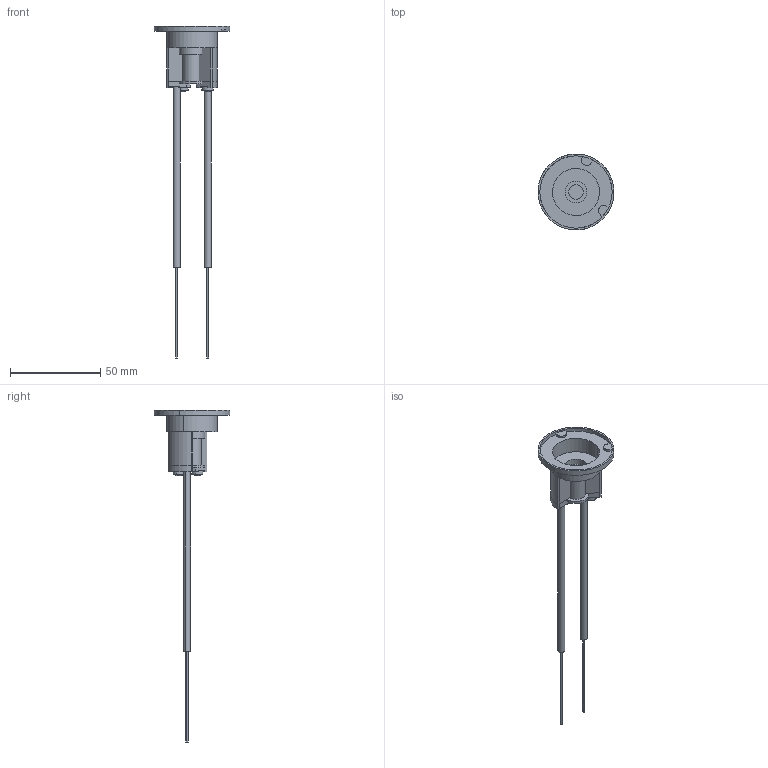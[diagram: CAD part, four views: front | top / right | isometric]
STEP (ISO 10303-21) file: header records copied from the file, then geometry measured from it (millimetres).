
FILE_DESCRIPTION (( 'STEP AP203' ), '1' );
FILE_NAME ('FR-10PRN.STEP', '2016-06-21T01:42:16', ( '' ), ( '' ), 'SwSTEP 2.0', 'SolidWorks 2014', '' );
FILE_SCHEMA (( 'CONFIG_CONTROL_DESIGN' ));
Length unit declared in the file: metre
Products named in the file (8): PRNA10S-#-#-#-FR (1); PRNA10S-#-#-#-FR (2); PRNA10S-#-#-#-FR (6); FR-10PRN; PRNA10S-#-#-#-FR (3); PRNA10S-#-#-#-FR (5); PRNA10S-#-#-#-FR (7); PRNA10S-#-#-#-FR (4)
Assembly tree (9 placements, depth 2):
  FR-10PRN
    PRNA10S-#-#-#-FR (1)
    PRNA10S-#-#-#-FR (2)
    PRNA10S-#-#-#-FR (3)
    PRNA10S-#-#-#-FR (4)
    PRNA10S-#-#-#-FR (5)
    PRNA10S-#-#-#-FR (6)  x2
    PRNA10S-#-#-#-FR (7)  x2
Bounding box: 42 x 41.99 x 183.5 mm (x, y, z)
Volume: 10632.7 mm3; surface area: 12364.2 mm2
Topology: 9 solids, 9 shells, 170 faces, 420 edges, 280 vertices
Faces by surface type: plane 84, cylinder 82, bspline 4
Entity records: 5388 total; most frequent: CARTESIAN_POINT 862, DIRECTION 820, ORIENTED_EDGE 732, EDGE_CURVE 366, AXIS2_PLACEMENT_3D 314, VERTEX_POINT 244, LINE 192, VECTOR 192
